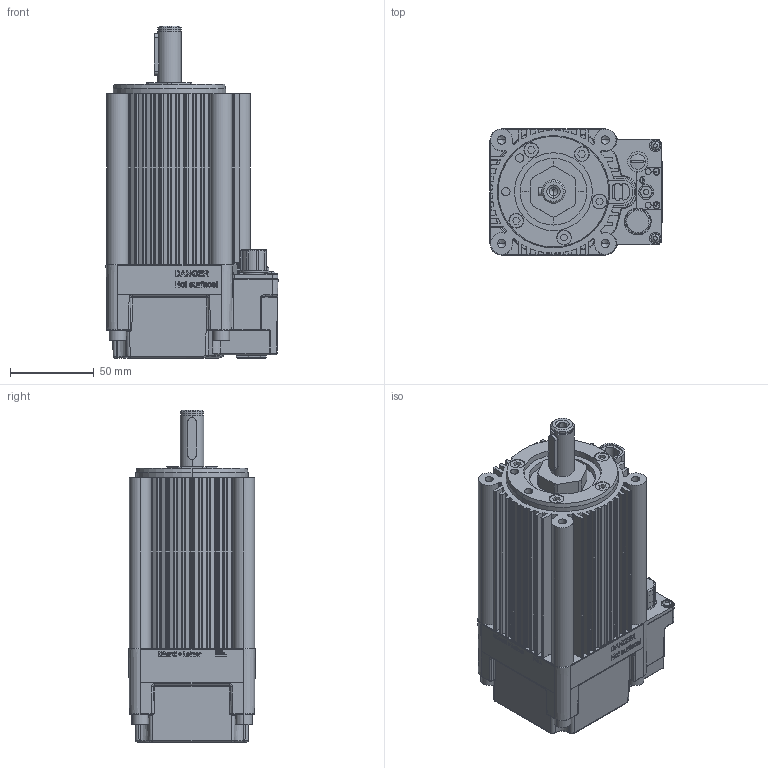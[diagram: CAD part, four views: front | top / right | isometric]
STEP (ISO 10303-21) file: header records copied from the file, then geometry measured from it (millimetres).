
FILE_DESCRIPTION (( 'STEP AP214' ), '1' );
FILE_NAME ('AD 1203.STEP', '2022-03-10T09:50:03', ( '' ), ( '' ), 'SwSTEP 2.0', 'SolidWorks 2019', '' );
FILE_SCHEMA (( 'AUTOMOTIVE_DESIGN' ));
Length unit declared in the file: millimetre
Products named in the file (1): AD 1203
Bounding box: 103.02 x 75.99 x 198.8 mm (x, y, z)
Volume: 894271.3 mm3; surface area: 187432 mm2
Topology: 41 solids, 50 shells, 2025 faces, 5625 edges, 3780 vertices
Faces by surface type: cylinder 746, plane 745, cone 235, torus 131, bspline 118, sphere 50
Entity records: 94121 total; most frequent: CARTESIAN_POINT 19729, ORIENTED_EDGE 10952, DIRECTION 10719, EDGE_CURVE 5476, AXIS2_PLACEMENT_3D 3945, VERTEX_POINT 3732, LINE 2829, VECTOR 2829
